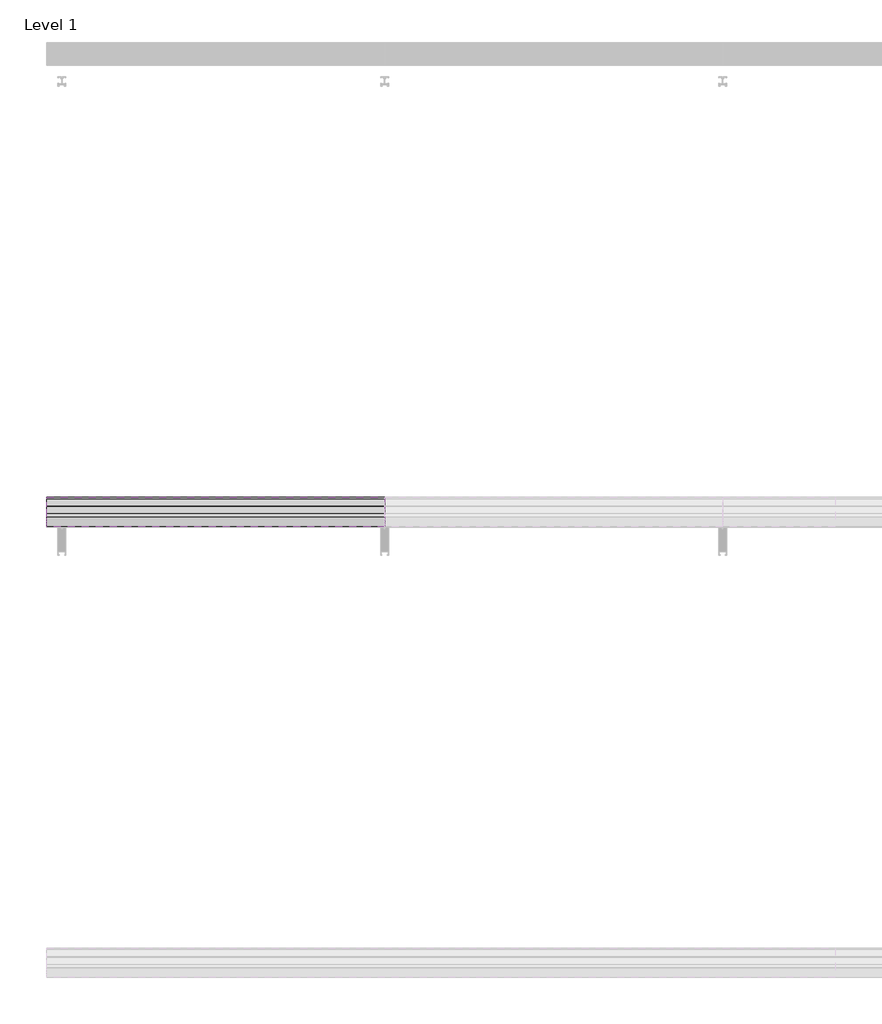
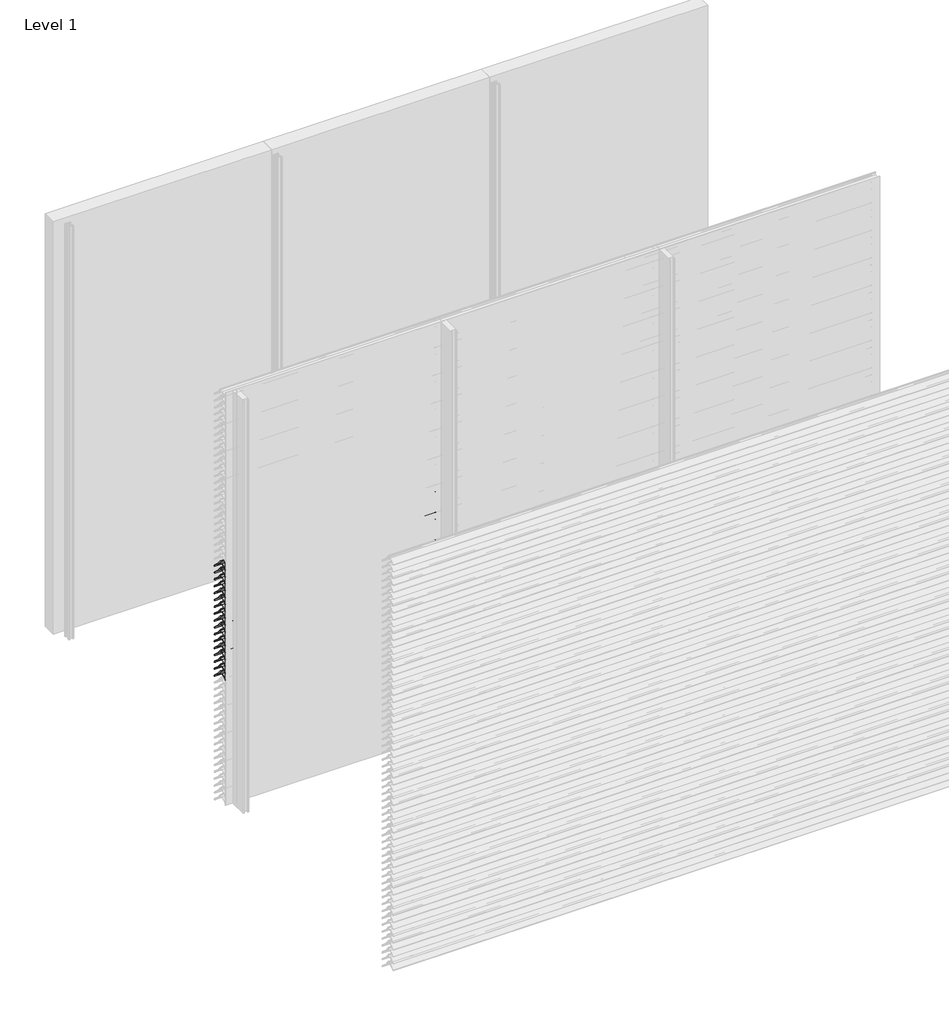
# One storey, part 25 of 173: 17 proxies.
"""IFC4 building model written with IfcOpenShell, lengths in millimetres."""

import ifcopenshell
import ifcopenshell.guid

model = None  # the IFC model being written
_history = None  # IfcOwnerHistory: only IFC2X3 demands one
_inside = {}  # id of a spatial element -> (the spatial element, [elements in it])
_under = {}  # id of a project, library or spatial element -> (it, [spatial elements below it])
_declared = {}  # id of a project -> (the project, [libraries it declares])
_typed = {}  # id of a type object -> (the type object, [elements of that type])
_made_of = {}  # id of a material, layer set ... -> (it, [elements and type objects made of it])


def new_model(schema):
    """Start an empty IFC model of exactly this schema.

    Asked for "IFC4X3", IfcOpenShell would pick the latest addendum, in which some entities
    have other attributes; the version numbers below select the first issue.
    IFC2X3 requires an IfcOwnerHistory on every rooted entity: one is made here for all.
    """
    global model, _history
    if schema == "IFC4X3":
        model = ifcopenshell.file(schema_version=(4, 3, 0, 0))
    else:
        model = ifcopenshell.file(schema=schema)
    _inside.clear()
    _under.clear()
    _declared.clear()
    _typed.clear()
    _made_of.clear()
    _history = None
    if model.schema == "IFC2X3":
        org = make("IfcOrganization", Name="unknown")
        user = make(
            "IfcPersonAndOrganization",
            ThePerson=make("IfcPerson", FamilyName="unknown"),
            TheOrganization=org,
        )
        app = make(
            "IfcApplication",
            ApplicationDeveloper=org,
            Version="unknown",
            ApplicationFullName="unknown",
            ApplicationIdentifier="unknown",
        )
        _history = make(
            "IfcOwnerHistory",
            OwningUser=user,
            OwningApplication=app,
            ChangeAction="ADDED",
            CreationDate=0,
        )
    return model


def make(cls, **values):
    """One entity of the class cls with the attributes given. An attribute that is None is left unset."""
    return model.create_entity(
        cls, **{name: value for name, value in values.items() if value is not None}
    )


def rooted(cls, **values):
    """An entity with a GlobalId (a new one), such as an element, a storey or a relation."""
    return make(cls, GlobalId=ifcopenshell.guid.new(), OwnerHistory=_history, **values)


def si_unit(unit_type, name, prefix=None):
    """IfcSIUnit, for example si_unit("LENGTHUNIT", "METRE", prefix="MILLI")."""
    return make("IfcSIUnit", UnitType=unit_type, Prefix=prefix, Name=name)


def assignment(units):
    """IfcUnitAssignment: the units of a project."""
    return None if units is None else make("IfcUnitAssignment", Units=units)


def point(xyz):
    """IfcCartesianPoint."""
    return None if xyz is None else make("IfcCartesianPoint", Coordinates=xyz)


def direction(xyz):
    """IfcDirection."""
    return None if xyz is None else make("IfcDirection", DirectionRatios=xyz)


def frame(location, z_axis=None, x_axis=None):
    """IfcAxis2Placement3D, a coordinate frame: its origin and axes. An axis left out is left unset."""
    return make(
        "IfcAxis2Placement3D",
        Location=point(location),
        Axis=direction(z_axis),
        RefDirection=direction(x_axis),
    )


def frame_2d(location, x_axis=None):
    """IfcAxis2Placement2D, a coordinate frame in the plane: its origin and x axis."""
    return make(
        "IfcAxis2Placement2D", Location=point(location), RefDirection=direction(x_axis)
    )


def origin():
    """The frame at (0, 0, 0) with its axes left unset."""
    return frame((0.0, 0.0, 0.0))


def place(relative_to, where):
    """IfcLocalPlacement: puts the frame where relative to a parent placement (None: the world)."""
    return make(
        "IfcLocalPlacement", PlacementRelTo=relative_to, RelativePlacement=where
    )


def context(
    kind, dimensions, precision=None, world=None, true_north=None, identifier=None
):
    """IfcGeometricRepresentationContext, for example the 3D "Model" context."""
    return make(
        "IfcGeometricRepresentationContext",
        ContextIdentifier=identifier,
        ContextType=kind,
        CoordinateSpaceDimension=dimensions,
        Precision=precision,
        WorldCoordinateSystem=world,
        TrueNorth=true_north,
    )


def project(units=None, contexts=None):
    """IfcProject with its units and contexts."""
    return rooted(
        "IfcProject",
        Name="project",
        RepresentationContexts=contexts,
        UnitsInContext=assignment(units),
    )


def spatial(cls, under=None, at=None, **own):
    """A site, building, storey or space (cls), placed at a placement, below another one or the project."""
    s = rooted(cls, ObjectPlacement=at, **own)
    if under is not None:
        _under.setdefault(under.id(), (under, []))[1].append(s)
    return s


def polyline(points):
    """IfcPolyline through the points."""
    return make("IfcPolyline", Points=[point(p) for p in points])


def circle_curve(where, radius):
    """IfcCircle in the frame where."""
    return make("IfcCircle", Position=where, Radius=radius)


def trimmed(basis, trim1, trim2, sense, master):
    """IfcTrimmedCurve: the piece of a basis curve between two trims."""
    return make(
        "IfcTrimmedCurve",
        BasisCurve=basis,
        Trim1=trim1,
        Trim2=trim2,
        SenseAgreement=sense,
        MasterRepresentation=master,
    )


def segment(curve, same_sense, transition):
    """IfcCompositeCurveSegment."""
    return make(
        "IfcCompositeCurveSegment",
        Transition=transition,
        SameSense=same_sense,
        ParentCurve=curve,
    )


def composite_curve(segments, self_intersect=None):
    """IfcCompositeCurve: segments joined end to end."""
    return make("IfcCompositeCurve", Segments=segments, SelfIntersect=self_intersect)


def outline(outer, holes=None, kind="AREA"):
    """IfcArbitraryClosedProfileDef: a profile drawn as a closed curve; with holes, ...WithVoids."""
    if holes is None:
        return make("IfcArbitraryClosedProfileDef", ProfileType=kind, OuterCurve=outer)
    return make(
        "IfcArbitraryProfileDefWithVoids",
        ProfileType=kind,
        OuterCurve=outer,
        InnerCurves=holes,
    )


def extrude(swept, where, along, depth):
    """IfcExtrudedAreaSolid: the profile swept, set in the frame where, extruded along a direction by depth."""
    return make(
        "IfcExtrudedAreaSolid",
        SweptArea=swept,
        Position=where,
        ExtrudedDirection=direction(along),
        Depth=depth,
    )


def shape(context_of_items, identifier, shape_type, items):
    """IfcShapeRepresentation: the items that make up one representation, for example the "Body"."""
    return make(
        "IfcShapeRepresentation",
        ContextOfItems=context_of_items,
        RepresentationIdentifier=identifier,
        RepresentationType=shape_type,
        Items=items,
    )


def made_of(thing, what):
    """Note that an element or type object is made of a material, layer set ...; save() writes the relation."""
    if what is not None:
        _made_of.setdefault(what.id(), (what, []))[1].append(thing)
    return thing


def element(
    cls,
    number,
    at=None,
    inside=None,
    cuts=None,
    type_object=None,
    material=None,
    context=None,
    identifier="Body",
    shape_type=None,
    held_by="IfcProductDefinitionShape",
    body=None,
    shapes=None,
    **own,
):
    """One element of the class cls, such as IfcWall. Its Tag is "e" and its number.

    at: its placement. inside: the storey or other place that contains it. cuts: it is an
    opening in that element (IfcRelVoidsElement). A single representation is given by context,
    identifier, shape_type and body (its items); several are given by shapes. held_by: the class
    of the entity that holds the representations. save() writes the other relations.
    """
    e = rooted(cls, Tag="e%d" % number, ObjectPlacement=at, **own)
    if body is not None:
        shapes = [shape(context, identifier, shape_type, body)]
    if shapes is not None:
        e.Representation = make(held_by, Representations=shapes)
    if inside is not None:
        _inside.setdefault(inside.id(), (inside, []))[1].append(e)
    if cuts is not None:
        rooted(
            "IfcRelVoidsElement", RelatingBuildingElement=cuts, RelatedOpeningElement=e
        )
    if type_object is not None:
        _typed.setdefault(type_object.id(), (type_object, []))[1].append(e)
    return made_of(e, material)


def aggregate(whole, parts):
    """IfcRelAggregates: a whole, such as a stair, and the parts it consists of."""
    return rooted("IfcRelAggregates", RelatingObject=whole, RelatedObjects=parts)


def save(model, path):
    """Write the relations noted so far, then the file.

    IfcRelAggregates (storeys below a building ...), IfcRelContainedInSpatialStructure (elements
    in a storey), IfcRelDefinesByType, IfcRelAssociatesMaterial and IfcRelDeclares: one each for
    every whole, place, type object, material and project.
    """
    for whole, parts in _under.values():
        aggregate(whole, parts)
    for where, things in _inside.values():
        rooted(
            "IfcRelContainedInSpatialStructure",
            RelatedElements=things,
            RelatingStructure=where,
        )
    for kind, things in _typed.values():
        rooted("IfcRelDefinesByType", RelatedObjects=things, RelatingType=kind)
    for what, things in _made_of.values():
        rooted("IfcRelAssociatesMaterial", RelatedObjects=things, RelatingMaterial=what)
    for by, libraries in _declared.values():
        rooted("IfcRelDeclares", RelatingContext=by, RelatedDefinitions=libraries)
    model.write(path)


model = new_model("IFC4")

# Units and contexts
model_context = context("Model", 3, world=origin())
ifc_project = project(units=[si_unit("LENGTHUNIT", "METRE", prefix="MILLI")], contexts=[model_context])

# Site, building, storey
site = spatial("IfcSite", under=ifc_project)
building = spatial("IfcBuilding", under=site)
storey = spatial("IfcBuildingStorey", under=building, Name="Level 1", Elevation=0.0)

# Proxies
placement = place(None, origin())
element("IfcBuildingElementProxy", 1, Name="Wall Sweeps", at=placement, inside=storey, context=model_context, shape_type="SweptSolid", body=[
    extrude(outline(composite_curve([segment(polyline([(-47998.0, 1709.1474905), (-47998.0, 1711.6227417)]), True, "CONTINUOUS"), segment(trimmed(circle_curve(frame_2d((-47951.2682172, 1666.2200208)), 65.1557103), [point((-47998.0, 1711.6227417))], [point((-47954.4014323, 1731.3003524))], False, "CARTESIAN"), True, "CONTINUOUS"), segment(polyline([(-47954.4014323, 1731.3003524), (-47934.8315836, 1731.3003524)]), True, "CONTINUOUS"), segment(trimmed(circle_curve(frame_2d((-47732.7329489, 1878.5533172)), 250.0545817), [point((-47934.8315836, 1731.3003524))], [point((-47941.4452143, 1740.8344583))], False, "CARTESIAN"), True, "CONTINUOUS"), segment(trimmed(circle_curve(frame_2d((-47953.2981792, 1735.1737835)), 13.1352966), [point((-47941.4452143, 1740.8344583))], [point((-47953.8171475, 1748.298824))], True, "CARTESIAN"), True, "CONTINUOUS"), segment(polyline([(-47953.8171475, 1748.298824), (-47953.8171475, 1750.0)]), True, "CONTINUOUS"), segment(trimmed(circle_curve(frame_2d((-47953.2981792, 1735.1737835)), 14.8352966), [point((-47953.8171475, 1750.0))], [point((-47939.9637661, 1741.6760487))], False, "CARTESIAN"), True, "CONTINUOUS"), segment(trimmed(circle_curve(frame_2d((-47732.7329489, 1878.5533172)), 248.3545817), [point((-47939.9637661, 1741.6760487))], [point((-47873.8787895, 1674.2059416))], True, "CARTESIAN"), True, "CONTINUOUS"), segment(trimmed(circle_curve(frame_2d((-47883.8147537, 1661.6649442)), 16.0), [point((-47873.8787895, 1674.2059416))], [point((-47867.8648347, 1660.4))], False, "CARTESIAN"), True, "CONTINUOUS"), segment(polyline([(-47867.8648347, 1660.4), (-47869.6712069, 1660.4)]), True, "CONTINUOUS"), segment(trimmed(circle_curve(frame_2d((-47883.8147537, 1661.6649442)), 14.2), [point((-47869.6712069, 1660.4))], [point((-47874.9518628, 1672.7594998))], True, "CARTESIAN"), True, "CONTINUOUS"), segment(trimmed(circle_curve(frame_2d((-47732.7329489, 1878.5533172)), 250.1545817), [point((-47874.9518628, 1672.7594998))], [point((-47933.7064024, 1729.6003524))], False, "CARTESIAN"), True, "CONTINUOUS"), segment(polyline([(-47933.7064024, 1729.6003524), (-47954.3602632, 1729.6003524)]), True, "CONTINUOUS"), segment(trimmed(circle_curve(frame_2d((-47951.2682172, 1666.2200208)), 63.4557103), [point((-47954.3602632, 1729.6003524))], [point((-47998.0, 1709.1474905))], True, "CARTESIAN"), True, "CONTINUOUS")], self_intersect=False)), frame((0.0, 0.0, 0.0), z_axis=(1.0, 0.0, 0.0), x_axis=(0.0, 1.0, 0.0)), (0.0, 0.0, 1.0), 1500.0),
])
element("IfcBuildingElementProxy", 2, Name="Wall Sweeps", at=placement, inside=storey, context=model_context, shape_type="SweptSolid", body=[
    extrude(outline(composite_curve([segment(polyline([(-47998.0, 1659.1474905), (-47998.0, 1661.6227417)]), True, "CONTINUOUS"), segment(trimmed(circle_curve(frame_2d((-47951.2682172, 1616.2200208)), 65.1557103), [point((-47998.0, 1661.6227417))], [point((-47954.4014323, 1681.3003524))], False, "CARTESIAN"), True, "CONTINUOUS"), segment(polyline([(-47954.4014323, 1681.3003524), (-47934.8315836, 1681.3003524)]), True, "CONTINUOUS"), segment(trimmed(circle_curve(frame_2d((-47732.7329489, 1828.5533172)), 250.0545817), [point((-47934.8315836, 1681.3003524))], [point((-47941.4452143, 1690.8344583))], False, "CARTESIAN"), True, "CONTINUOUS"), segment(trimmed(circle_curve(frame_2d((-47953.2981792, 1685.1737835)), 13.1352966), [point((-47941.4452143, 1690.8344583))], [point((-47953.8171475, 1698.298824))], True, "CARTESIAN"), True, "CONTINUOUS"), segment(polyline([(-47953.8171475, 1698.298824), (-47953.8171475, 1700.0)]), True, "CONTINUOUS"), segment(trimmed(circle_curve(frame_2d((-47953.2981792, 1685.1737835)), 14.8352966), [point((-47953.8171475, 1700.0))], [point((-47939.9637661, 1691.6760487))], False, "CARTESIAN"), True, "CONTINUOUS"), segment(trimmed(circle_curve(frame_2d((-47732.7329489, 1828.5533172)), 248.3545817), [point((-47939.9637661, 1691.6760487))], [point((-47873.8787895, 1624.2059416))], True, "CARTESIAN"), True, "CONTINUOUS"), segment(trimmed(circle_curve(frame_2d((-47883.8147537, 1611.6649442)), 16.0), [point((-47873.8787895, 1624.2059416))], [point((-47867.8648347, 1610.4))], False, "CARTESIAN"), True, "CONTINUOUS"), segment(polyline([(-47867.8648347, 1610.4), (-47869.6712069, 1610.4)]), True, "CONTINUOUS"), segment(trimmed(circle_curve(frame_2d((-47883.8147537, 1611.6649442)), 14.2), [point((-47869.6712069, 1610.4))], [point((-47874.9518628, 1622.7594998))], True, "CARTESIAN"), True, "CONTINUOUS"), segment(trimmed(circle_curve(frame_2d((-47732.7329489, 1828.5533172)), 250.1545817), [point((-47874.9518628, 1622.7594998))], [point((-47933.7064024, 1679.6003524))], False, "CARTESIAN"), True, "CONTINUOUS"), segment(polyline([(-47933.7064024, 1679.6003524), (-47954.3602632, 1679.6003524)]), True, "CONTINUOUS"), segment(trimmed(circle_curve(frame_2d((-47951.2682172, 1616.2200208)), 63.4557103), [point((-47954.3602632, 1679.6003524))], [point((-47998.0, 1659.1474905))], True, "CARTESIAN"), True, "CONTINUOUS")], self_intersect=False)), frame((0.0, 0.0, 0.0), z_axis=(1.0, 0.0, 0.0), x_axis=(0.0, 1.0, 0.0)), (0.0, 0.0, 1.0), 1500.0),
])
element("IfcBuildingElementProxy", 3, Name="Wall Sweeps", at=placement, inside=storey, context=model_context, shape_type="SweptSolid", body=[
    extrude(outline(composite_curve([segment(polyline([(-47998.0, 1609.1474905), (-47998.0, 1611.6227417)]), True, "CONTINUOUS"), segment(trimmed(circle_curve(frame_2d((-47951.2682172, 1566.2200208)), 65.1557103), [point((-47998.0, 1611.6227417))], [point((-47954.4014323, 1631.3003524))], False, "CARTESIAN"), True, "CONTINUOUS"), segment(polyline([(-47954.4014323, 1631.3003524), (-47934.8315836, 1631.3003524)]), True, "CONTINUOUS"), segment(trimmed(circle_curve(frame_2d((-47732.7329489, 1778.5533172)), 250.0545817), [point((-47934.8315836, 1631.3003524))], [point((-47941.4452143, 1640.8344583))], False, "CARTESIAN"), True, "CONTINUOUS"), segment(trimmed(circle_curve(frame_2d((-47953.2981792, 1635.1737835)), 13.1352966), [point((-47941.4452143, 1640.8344583))], [point((-47953.8171475, 1648.298824))], True, "CARTESIAN"), True, "CONTINUOUS"), segment(polyline([(-47953.8171475, 1648.298824), (-47953.8171475, 1650.0)]), True, "CONTINUOUS"), segment(trimmed(circle_curve(frame_2d((-47953.2981792, 1635.1737835)), 14.8352966), [point((-47953.8171475, 1650.0))], [point((-47939.9637661, 1641.6760487))], False, "CARTESIAN"), True, "CONTINUOUS"), segment(trimmed(circle_curve(frame_2d((-47732.7329489, 1778.5533172)), 248.3545817), [point((-47939.9637661, 1641.6760487))], [point((-47873.8787895, 1574.2059416))], True, "CARTESIAN"), True, "CONTINUOUS"), segment(trimmed(circle_curve(frame_2d((-47883.8147537, 1561.6649442)), 16.0), [point((-47873.8787895, 1574.2059416))], [point((-47867.8648347, 1560.4))], False, "CARTESIAN"), True, "CONTINUOUS"), segment(polyline([(-47867.8648347, 1560.4), (-47869.6712069, 1560.4)]), True, "CONTINUOUS"), segment(trimmed(circle_curve(frame_2d((-47883.8147537, 1561.6649442)), 14.2), [point((-47869.6712069, 1560.4))], [point((-47874.9518628, 1572.7594998))], True, "CARTESIAN"), True, "CONTINUOUS"), segment(trimmed(circle_curve(frame_2d((-47732.7329489, 1778.5533172)), 250.1545817), [point((-47874.9518628, 1572.7594998))], [point((-47933.7064024, 1629.6003524))], False, "CARTESIAN"), True, "CONTINUOUS"), segment(polyline([(-47933.7064024, 1629.6003524), (-47954.3602632, 1629.6003524)]), True, "CONTINUOUS"), segment(trimmed(circle_curve(frame_2d((-47951.2682172, 1566.2200208)), 63.4557103), [point((-47954.3602632, 1629.6003524))], [point((-47998.0, 1609.1474905))], True, "CARTESIAN"), True, "CONTINUOUS")], self_intersect=False)), frame((0.0, 0.0, 0.0), z_axis=(1.0, 0.0, 0.0), x_axis=(0.0, 1.0, 0.0)), (0.0, 0.0, 1.0), 1500.0),
])
element("IfcBuildingElementProxy", 4, Name="Wall Sweeps", at=placement, inside=storey, context=model_context, shape_type="SweptSolid", body=[
    extrude(outline(composite_curve([segment(polyline([(-47998.0, 1559.1474905), (-47998.0, 1561.6227417)]), True, "CONTINUOUS"), segment(trimmed(circle_curve(frame_2d((-47951.2682172, 1516.2200208)), 65.1557103), [point((-47998.0, 1561.6227417))], [point((-47954.4014323, 1581.3003524))], False, "CARTESIAN"), True, "CONTINUOUS"), segment(polyline([(-47954.4014323, 1581.3003524), (-47934.8315836, 1581.3003524)]), True, "CONTINUOUS"), segment(trimmed(circle_curve(frame_2d((-47732.7329489, 1728.5533172)), 250.0545817), [point((-47934.8315836, 1581.3003524))], [point((-47941.4452143, 1590.8344583))], False, "CARTESIAN"), True, "CONTINUOUS"), segment(trimmed(circle_curve(frame_2d((-47953.2981792, 1585.1737835)), 13.1352966), [point((-47941.4452143, 1590.8344583))], [point((-47953.8171475, 1598.298824))], True, "CARTESIAN"), True, "CONTINUOUS"), segment(polyline([(-47953.8171475, 1598.298824), (-47953.8171475, 1600.0)]), True, "CONTINUOUS"), segment(trimmed(circle_curve(frame_2d((-47953.2981792, 1585.1737835)), 14.8352966), [point((-47953.8171475, 1600.0))], [point((-47939.9637661, 1591.6760487))], False, "CARTESIAN"), True, "CONTINUOUS"), segment(trimmed(circle_curve(frame_2d((-47732.7329489, 1728.5533172)), 248.3545817), [point((-47939.9637661, 1591.6760487))], [point((-47873.8787895, 1524.2059416))], True, "CARTESIAN"), True, "CONTINUOUS"), segment(trimmed(circle_curve(frame_2d((-47883.8147537, 1511.6649442)), 16.0), [point((-47873.8787895, 1524.2059416))], [point((-47867.8648347, 1510.4))], False, "CARTESIAN"), True, "CONTINUOUS"), segment(polyline([(-47867.8648347, 1510.4), (-47869.6712069, 1510.4)]), True, "CONTINUOUS"), segment(trimmed(circle_curve(frame_2d((-47883.8147537, 1511.6649442)), 14.2), [point((-47869.6712069, 1510.4))], [point((-47874.9518628, 1522.7594998))], True, "CARTESIAN"), True, "CONTINUOUS"), segment(trimmed(circle_curve(frame_2d((-47732.7329489, 1728.5533172)), 250.1545817), [point((-47874.9518628, 1522.7594998))], [point((-47933.7064024, 1579.6003524))], False, "CARTESIAN"), True, "CONTINUOUS"), segment(polyline([(-47933.7064024, 1579.6003524), (-47954.3602632, 1579.6003524)]), True, "CONTINUOUS"), segment(trimmed(circle_curve(frame_2d((-47951.2682172, 1516.2200208)), 63.4557103), [point((-47954.3602632, 1579.6003524))], [point((-47998.0, 1559.1474905))], True, "CARTESIAN"), True, "CONTINUOUS")], self_intersect=False)), frame((0.0, 0.0, 0.0), z_axis=(1.0, 0.0, 0.0), x_axis=(0.0, 1.0, 0.0)), (0.0, 0.0, 1.0), 1500.0),
])
element("IfcBuildingElementProxy", 5, Name="Wall Sweeps", at=placement, inside=storey, context=model_context, shape_type="SweptSolid", body=[
    extrude(outline(composite_curve([segment(polyline([(-47998.0, 1509.1474905), (-47998.0, 1511.6227417)]), True, "CONTINUOUS"), segment(trimmed(circle_curve(frame_2d((-47951.2682172, 1466.2200208)), 65.1557103), [point((-47998.0, 1511.6227417))], [point((-47954.4014323, 1531.3003524))], False, "CARTESIAN"), True, "CONTINUOUS"), segment(polyline([(-47954.4014323, 1531.3003524), (-47934.8315836, 1531.3003524)]), True, "CONTINUOUS"), segment(trimmed(circle_curve(frame_2d((-47732.7329489, 1678.5533172)), 250.0545817), [point((-47934.8315836, 1531.3003524))], [point((-47941.4452143, 1540.8344583))], False, "CARTESIAN"), True, "CONTINUOUS"), segment(trimmed(circle_curve(frame_2d((-47953.2981792, 1535.1737835)), 13.1352966), [point((-47941.4452143, 1540.8344583))], [point((-47953.8171475, 1548.298824))], True, "CARTESIAN"), True, "CONTINUOUS"), segment(polyline([(-47953.8171475, 1548.298824), (-47953.8171475, 1550.0)]), True, "CONTINUOUS"), segment(trimmed(circle_curve(frame_2d((-47953.2981792, 1535.1737835)), 14.8352966), [point((-47953.8171475, 1550.0))], [point((-47939.9637661, 1541.6760487))], False, "CARTESIAN"), True, "CONTINUOUS"), segment(trimmed(circle_curve(frame_2d((-47732.7329489, 1678.5533172)), 248.3545817), [point((-47939.9637661, 1541.6760487))], [point((-47873.8787895, 1474.2059416))], True, "CARTESIAN"), True, "CONTINUOUS"), segment(trimmed(circle_curve(frame_2d((-47883.8147537, 1461.6649442)), 16.0), [point((-47873.8787895, 1474.2059416))], [point((-47867.8648347, 1460.4))], False, "CARTESIAN"), True, "CONTINUOUS"), segment(polyline([(-47867.8648347, 1460.4), (-47869.6712069, 1460.4)]), True, "CONTINUOUS"), segment(trimmed(circle_curve(frame_2d((-47883.8147537, 1461.6649442)), 14.2), [point((-47869.6712069, 1460.4))], [point((-47874.9518628, 1472.7594998))], True, "CARTESIAN"), True, "CONTINUOUS"), segment(trimmed(circle_curve(frame_2d((-47732.7329489, 1678.5533172)), 250.1545817), [point((-47874.9518628, 1472.7594998))], [point((-47933.7064024, 1529.6003524))], False, "CARTESIAN"), True, "CONTINUOUS"), segment(polyline([(-47933.7064024, 1529.6003524), (-47954.3602632, 1529.6003524)]), True, "CONTINUOUS"), segment(trimmed(circle_curve(frame_2d((-47951.2682172, 1466.2200208)), 63.4557103), [point((-47954.3602632, 1529.6003524))], [point((-47998.0, 1509.1474905))], True, "CARTESIAN"), True, "CONTINUOUS")], self_intersect=False)), frame((0.0, 0.0, 0.0), z_axis=(1.0, 0.0, 0.0), x_axis=(0.0, 1.0, 0.0)), (0.0, 0.0, 1.0), 1500.0),
])
element("IfcBuildingElementProxy", 6, Name="Wall Sweeps", at=placement, inside=storey, context=model_context, shape_type="SweptSolid", body=[
    extrude(outline(composite_curve([segment(polyline([(-47998.0, 1459.1474905), (-47998.0, 1461.6227417)]), True, "CONTINUOUS"), segment(trimmed(circle_curve(frame_2d((-47951.2682172, 1416.2200208)), 65.1557103), [point((-47998.0, 1461.6227417))], [point((-47954.4014323, 1481.3003524))], False, "CARTESIAN"), True, "CONTINUOUS"), segment(polyline([(-47954.4014323, 1481.3003524), (-47934.8315836, 1481.3003524)]), True, "CONTINUOUS"), segment(trimmed(circle_curve(frame_2d((-47732.7329489, 1628.5533172)), 250.0545817), [point((-47934.8315836, 1481.3003524))], [point((-47941.4452143, 1490.8344583))], False, "CARTESIAN"), True, "CONTINUOUS"), segment(trimmed(circle_curve(frame_2d((-47953.2981792, 1485.1737835)), 13.1352966), [point((-47941.4452143, 1490.8344583))], [point((-47953.8171475, 1498.298824))], True, "CARTESIAN"), True, "CONTINUOUS"), segment(polyline([(-47953.8171475, 1498.298824), (-47953.8171475, 1500.0)]), True, "CONTINUOUS"), segment(trimmed(circle_curve(frame_2d((-47953.2981792, 1485.1737835)), 14.8352966), [point((-47953.8171475, 1500.0))], [point((-47939.9637661, 1491.6760487))], False, "CARTESIAN"), True, "CONTINUOUS"), segment(trimmed(circle_curve(frame_2d((-47732.7329489, 1628.5533172)), 248.3545817), [point((-47939.9637661, 1491.6760487))], [point((-47873.8787895, 1424.2059416))], True, "CARTESIAN"), True, "CONTINUOUS"), segment(trimmed(circle_curve(frame_2d((-47883.8147537, 1411.6649442)), 16.0), [point((-47873.8787895, 1424.2059416))], [point((-47867.8648347, 1410.4))], False, "CARTESIAN"), True, "CONTINUOUS"), segment(polyline([(-47867.8648347, 1410.4), (-47869.6712069, 1410.4)]), True, "CONTINUOUS"), segment(trimmed(circle_curve(frame_2d((-47883.8147537, 1411.6649442)), 14.2), [point((-47869.6712069, 1410.4))], [point((-47874.9518628, 1422.7594998))], True, "CARTESIAN"), True, "CONTINUOUS"), segment(trimmed(circle_curve(frame_2d((-47732.7329489, 1628.5533172)), 250.1545817), [point((-47874.9518628, 1422.7594998))], [point((-47933.7064024, 1479.6003524))], False, "CARTESIAN"), True, "CONTINUOUS"), segment(polyline([(-47933.7064024, 1479.6003524), (-47954.3602632, 1479.6003524)]), True, "CONTINUOUS"), segment(trimmed(circle_curve(frame_2d((-47951.2682172, 1416.2200208)), 63.4557103), [point((-47954.3602632, 1479.6003524))], [point((-47998.0, 1459.1474905))], True, "CARTESIAN"), True, "CONTINUOUS")], self_intersect=False)), frame((0.0, 0.0, 0.0), z_axis=(1.0, 0.0, 0.0), x_axis=(0.0, 1.0, 0.0)), (0.0, 0.0, 1.0), 1500.0),
])
element("IfcBuildingElementProxy", 7, Name="Wall Sweeps", at=placement, inside=storey, context=model_context, shape_type="SweptSolid", body=[
    extrude(outline(composite_curve([segment(polyline([(-47998.0, 1409.1474905), (-47998.0, 1411.6227417)]), True, "CONTINUOUS"), segment(trimmed(circle_curve(frame_2d((-47951.2682172, 1366.2200208)), 65.1557103), [point((-47998.0, 1411.6227417))], [point((-47954.4014323, 1431.3003524))], False, "CARTESIAN"), True, "CONTINUOUS"), segment(polyline([(-47954.4014323, 1431.3003524), (-47934.8315836, 1431.3003524)]), True, "CONTINUOUS"), segment(trimmed(circle_curve(frame_2d((-47732.7329489, 1578.5533172)), 250.0545817), [point((-47934.8315836, 1431.3003524))], [point((-47941.4452143, 1440.8344583))], False, "CARTESIAN"), True, "CONTINUOUS"), segment(trimmed(circle_curve(frame_2d((-47953.2981792, 1435.1737835)), 13.1352966), [point((-47941.4452143, 1440.8344583))], [point((-47953.8171475, 1448.298824))], True, "CARTESIAN"), True, "CONTINUOUS"), segment(polyline([(-47953.8171475, 1448.298824), (-47953.8171475, 1450.0)]), True, "CONTINUOUS"), segment(trimmed(circle_curve(frame_2d((-47953.2981792, 1435.1737835)), 14.8352966), [point((-47953.8171475, 1450.0))], [point((-47939.9637661, 1441.6760487))], False, "CARTESIAN"), True, "CONTINUOUS"), segment(trimmed(circle_curve(frame_2d((-47732.7329489, 1578.5533172)), 248.3545817), [point((-47939.9637661, 1441.6760487))], [point((-47873.8787895, 1374.2059416))], True, "CARTESIAN"), True, "CONTINUOUS"), segment(trimmed(circle_curve(frame_2d((-47883.8147537, 1361.6649442)), 16.0), [point((-47873.8787895, 1374.2059416))], [point((-47867.8648347, 1360.4))], False, "CARTESIAN"), True, "CONTINUOUS"), segment(polyline([(-47867.8648347, 1360.4), (-47869.6712069, 1360.4)]), True, "CONTINUOUS"), segment(trimmed(circle_curve(frame_2d((-47883.8147537, 1361.6649442)), 14.2), [point((-47869.6712069, 1360.4))], [point((-47874.9518628, 1372.7594998))], True, "CARTESIAN"), True, "CONTINUOUS"), segment(trimmed(circle_curve(frame_2d((-47732.7329489, 1578.5533172)), 250.1545817), [point((-47874.9518628, 1372.7594998))], [point((-47933.7064024, 1429.6003524))], False, "CARTESIAN"), True, "CONTINUOUS"), segment(polyline([(-47933.7064024, 1429.6003524), (-47954.3602632, 1429.6003524)]), True, "CONTINUOUS"), segment(trimmed(circle_curve(frame_2d((-47951.2682172, 1366.2200208)), 63.4557103), [point((-47954.3602632, 1429.6003524))], [point((-47998.0, 1409.1474905))], True, "CARTESIAN"), True, "CONTINUOUS")], self_intersect=False)), frame((0.0, 0.0, 0.0), z_axis=(1.0, 0.0, 0.0), x_axis=(0.0, 1.0, 0.0)), (0.0, 0.0, 1.0), 1500.0),
])
element("IfcBuildingElementProxy", 8, Name="Wall Sweeps", at=placement, inside=storey, context=model_context, shape_type="SweptSolid", body=[
    extrude(outline(composite_curve([segment(polyline([(-47998.0, 1359.1474905), (-47998.0, 1361.6227417)]), True, "CONTINUOUS"), segment(trimmed(circle_curve(frame_2d((-47951.2682172, 1316.2200208)), 65.1557103), [point((-47998.0, 1361.6227417))], [point((-47954.4014323, 1381.3003524))], False, "CARTESIAN"), True, "CONTINUOUS"), segment(polyline([(-47954.4014323, 1381.3003524), (-47934.8315836, 1381.3003524)]), True, "CONTINUOUS"), segment(trimmed(circle_curve(frame_2d((-47732.7329489, 1528.5533172)), 250.0545817), [point((-47934.8315836, 1381.3003524))], [point((-47941.4452143, 1390.8344583))], False, "CARTESIAN"), True, "CONTINUOUS"), segment(trimmed(circle_curve(frame_2d((-47953.2981792, 1385.1737835)), 13.1352966), [point((-47941.4452143, 1390.8344583))], [point((-47953.8171475, 1398.298824))], True, "CARTESIAN"), True, "CONTINUOUS"), segment(polyline([(-47953.8171475, 1398.298824), (-47953.8171475, 1400.0)]), True, "CONTINUOUS"), segment(trimmed(circle_curve(frame_2d((-47953.2981792, 1385.1737835)), 14.8352966), [point((-47953.8171475, 1400.0))], [point((-47939.9637661, 1391.6760487))], False, "CARTESIAN"), True, "CONTINUOUS"), segment(trimmed(circle_curve(frame_2d((-47732.7329489, 1528.5533172)), 248.3545817), [point((-47939.9637661, 1391.6760487))], [point((-47873.8787895, 1324.2059416))], True, "CARTESIAN"), True, "CONTINUOUS"), segment(trimmed(circle_curve(frame_2d((-47883.8147537, 1311.6649442)), 16.0), [point((-47873.8787895, 1324.2059416))], [point((-47867.8648347, 1310.4))], False, "CARTESIAN"), True, "CONTINUOUS"), segment(polyline([(-47867.8648347, 1310.4), (-47869.6712069, 1310.4)]), True, "CONTINUOUS"), segment(trimmed(circle_curve(frame_2d((-47883.8147537, 1311.6649442)), 14.2), [point((-47869.6712069, 1310.4))], [point((-47874.9518628, 1322.7594998))], True, "CARTESIAN"), True, "CONTINUOUS"), segment(trimmed(circle_curve(frame_2d((-47732.7329489, 1528.5533172)), 250.1545817), [point((-47874.9518628, 1322.7594998))], [point((-47933.7064024, 1379.6003524))], False, "CARTESIAN"), True, "CONTINUOUS"), segment(polyline([(-47933.7064024, 1379.6003524), (-47954.3602632, 1379.6003524)]), True, "CONTINUOUS"), segment(trimmed(circle_curve(frame_2d((-47951.2682172, 1316.2200208)), 63.4557103), [point((-47954.3602632, 1379.6003524))], [point((-47998.0, 1359.1474905))], True, "CARTESIAN"), True, "CONTINUOUS")], self_intersect=False)), frame((0.0, 0.0, 0.0), z_axis=(1.0, 0.0, 0.0), x_axis=(0.0, 1.0, 0.0)), (0.0, 0.0, 1.0), 1500.0),
])
element("IfcBuildingElementProxy", 9, Name="Wall Sweeps", at=placement, inside=storey, context=model_context, shape_type="SweptSolid", body=[
    extrude(outline(composite_curve([segment(polyline([(-47998.0, 1309.1474905), (-47998.0, 1311.6227417)]), True, "CONTINUOUS"), segment(trimmed(circle_curve(frame_2d((-47951.2682172, 1266.2200208)), 65.1557103), [point((-47998.0, 1311.6227417))], [point((-47954.4014323, 1331.3003524))], False, "CARTESIAN"), True, "CONTINUOUS"), segment(polyline([(-47954.4014323, 1331.3003524), (-47934.8315836, 1331.3003524)]), True, "CONTINUOUS"), segment(trimmed(circle_curve(frame_2d((-47732.7329489, 1478.5533172)), 250.0545817), [point((-47934.8315836, 1331.3003524))], [point((-47941.4452143, 1340.8344583))], False, "CARTESIAN"), True, "CONTINUOUS"), segment(trimmed(circle_curve(frame_2d((-47953.2981792, 1335.1737835)), 13.1352966), [point((-47941.4452143, 1340.8344583))], [point((-47953.8171475, 1348.298824))], True, "CARTESIAN"), True, "CONTINUOUS"), segment(polyline([(-47953.8171475, 1348.298824), (-47953.8171475, 1350.0)]), True, "CONTINUOUS"), segment(trimmed(circle_curve(frame_2d((-47953.2981792, 1335.1737835)), 14.8352966), [point((-47953.8171475, 1350.0))], [point((-47939.9637661, 1341.6760487))], False, "CARTESIAN"), True, "CONTINUOUS"), segment(trimmed(circle_curve(frame_2d((-47732.7329489, 1478.5533172)), 248.3545817), [point((-47939.9637661, 1341.6760487))], [point((-47873.8787895, 1274.2059416))], True, "CARTESIAN"), True, "CONTINUOUS"), segment(trimmed(circle_curve(frame_2d((-47883.8147537, 1261.6649442)), 16.0), [point((-47873.8787895, 1274.2059416))], [point((-47867.8648347, 1260.4))], False, "CARTESIAN"), True, "CONTINUOUS"), segment(polyline([(-47867.8648347, 1260.4), (-47869.6712069, 1260.4)]), True, "CONTINUOUS"), segment(trimmed(circle_curve(frame_2d((-47883.8147537, 1261.6649442)), 14.2), [point((-47869.6712069, 1260.4))], [point((-47874.9518628, 1272.7594998))], True, "CARTESIAN"), True, "CONTINUOUS"), segment(trimmed(circle_curve(frame_2d((-47732.7329489, 1478.5533172)), 250.1545817), [point((-47874.9518628, 1272.7594998))], [point((-47933.7064024, 1329.6003524))], False, "CARTESIAN"), True, "CONTINUOUS"), segment(polyline([(-47933.7064024, 1329.6003524), (-47954.3602632, 1329.6003524)]), True, "CONTINUOUS"), segment(trimmed(circle_curve(frame_2d((-47951.2682172, 1266.2200208)), 63.4557103), [point((-47954.3602632, 1329.6003524))], [point((-47998.0, 1309.1474905))], True, "CARTESIAN"), True, "CONTINUOUS")], self_intersect=False)), frame((0.0, 0.0, 0.0), z_axis=(1.0, 0.0, 0.0), x_axis=(0.0, 1.0, 0.0)), (0.0, 0.0, 1.0), 1500.0),
])
element("IfcBuildingElementProxy", 10, Name="Wall Sweeps", at=placement, inside=storey, context=model_context, shape_type="SweptSolid", body=[
    extrude(outline(composite_curve([segment(polyline([(-47998.0, 1259.1474905), (-47998.0, 1261.6227417)]), True, "CONTINUOUS"), segment(trimmed(circle_curve(frame_2d((-47951.2682172, 1216.2200208)), 65.1557103), [point((-47998.0, 1261.6227417))], [point((-47954.4014323, 1281.3003524))], False, "CARTESIAN"), True, "CONTINUOUS"), segment(polyline([(-47954.4014323, 1281.3003524), (-47934.8315836, 1281.3003524)]), True, "CONTINUOUS"), segment(trimmed(circle_curve(frame_2d((-47732.7329489, 1428.5533172)), 250.0545817), [point((-47934.8315836, 1281.3003524))], [point((-47941.4452143, 1290.8344583))], False, "CARTESIAN"), True, "CONTINUOUS"), segment(trimmed(circle_curve(frame_2d((-47953.2981792, 1285.1737835)), 13.1352966), [point((-47941.4452143, 1290.8344583))], [point((-47953.8171475, 1298.298824))], True, "CARTESIAN"), True, "CONTINUOUS"), segment(polyline([(-47953.8171475, 1298.298824), (-47953.8171475, 1300.0)]), True, "CONTINUOUS"), segment(trimmed(circle_curve(frame_2d((-47953.2981792, 1285.1737835)), 14.8352966), [point((-47953.8171475, 1300.0))], [point((-47939.9637661, 1291.6760487))], False, "CARTESIAN"), True, "CONTINUOUS"), segment(trimmed(circle_curve(frame_2d((-47732.7329489, 1428.5533172)), 248.3545817), [point((-47939.9637661, 1291.6760487))], [point((-47873.8787895, 1224.2059416))], True, "CARTESIAN"), True, "CONTINUOUS"), segment(trimmed(circle_curve(frame_2d((-47883.8147537, 1211.6649442)), 16.0), [point((-47873.8787895, 1224.2059416))], [point((-47867.8648347, 1210.4))], False, "CARTESIAN"), True, "CONTINUOUS"), segment(polyline([(-47867.8648347, 1210.4), (-47869.6712069, 1210.4)]), True, "CONTINUOUS"), segment(trimmed(circle_curve(frame_2d((-47883.8147537, 1211.6649442)), 14.2), [point((-47869.6712069, 1210.4))], [point((-47874.9518628, 1222.7594998))], True, "CARTESIAN"), True, "CONTINUOUS"), segment(trimmed(circle_curve(frame_2d((-47732.7329489, 1428.5533172)), 250.1545817), [point((-47874.9518628, 1222.7594998))], [point((-47933.7064024, 1279.6003524))], False, "CARTESIAN"), True, "CONTINUOUS"), segment(polyline([(-47933.7064024, 1279.6003524), (-47954.3602632, 1279.6003524)]), True, "CONTINUOUS"), segment(trimmed(circle_curve(frame_2d((-47951.2682172, 1216.2200208)), 63.4557103), [point((-47954.3602632, 1279.6003524))], [point((-47998.0, 1259.1474905))], True, "CARTESIAN"), True, "CONTINUOUS")], self_intersect=False)), frame((0.0, 0.0, 0.0), z_axis=(1.0, 0.0, 0.0), x_axis=(0.0, 1.0, 0.0)), (0.0, 0.0, 1.0), 1500.0),
])
element("IfcBuildingElementProxy", 11, Name="Wall Sweeps", at=placement, inside=storey, context=model_context, shape_type="SweptSolid", body=[
    extrude(outline(composite_curve([segment(polyline([(-47998.0, 1209.1474905), (-47998.0, 1211.6227417)]), True, "CONTINUOUS"), segment(trimmed(circle_curve(frame_2d((-47951.2682172, 1166.2200208)), 65.1557103), [point((-47998.0, 1211.6227417))], [point((-47954.4014323, 1231.3003524))], False, "CARTESIAN"), True, "CONTINUOUS"), segment(polyline([(-47954.4014323, 1231.3003524), (-47934.8315836, 1231.3003524)]), True, "CONTINUOUS"), segment(trimmed(circle_curve(frame_2d((-47732.7329489, 1378.5533172)), 250.0545817), [point((-47934.8315836, 1231.3003524))], [point((-47941.4452143, 1240.8344583))], False, "CARTESIAN"), True, "CONTINUOUS"), segment(trimmed(circle_curve(frame_2d((-47953.2981792, 1235.1737835)), 13.1352966), [point((-47941.4452143, 1240.8344583))], [point((-47953.8171475, 1248.298824))], True, "CARTESIAN"), True, "CONTINUOUS"), segment(polyline([(-47953.8171475, 1248.298824), (-47953.8171475, 1250.0)]), True, "CONTINUOUS"), segment(trimmed(circle_curve(frame_2d((-47953.2981792, 1235.1737835)), 14.8352966), [point((-47953.8171475, 1250.0))], [point((-47939.9637661, 1241.6760487))], False, "CARTESIAN"), True, "CONTINUOUS"), segment(trimmed(circle_curve(frame_2d((-47732.7329489, 1378.5533172)), 248.3545817), [point((-47939.9637661, 1241.6760487))], [point((-47873.8787895, 1174.2059416))], True, "CARTESIAN"), True, "CONTINUOUS"), segment(trimmed(circle_curve(frame_2d((-47883.8147537, 1161.6649442)), 16.0), [point((-47873.8787895, 1174.2059416))], [point((-47867.8648347, 1160.4))], False, "CARTESIAN"), True, "CONTINUOUS"), segment(polyline([(-47867.8648347, 1160.4), (-47869.6712069, 1160.4)]), True, "CONTINUOUS"), segment(trimmed(circle_curve(frame_2d((-47883.8147537, 1161.6649442)), 14.2), [point((-47869.6712069, 1160.4))], [point((-47874.9518628, 1172.7594998))], True, "CARTESIAN"), True, "CONTINUOUS"), segment(trimmed(circle_curve(frame_2d((-47732.7329489, 1378.5533172)), 250.1545817), [point((-47874.9518628, 1172.7594998))], [point((-47933.7064024, 1229.6003524))], False, "CARTESIAN"), True, "CONTINUOUS"), segment(polyline([(-47933.7064024, 1229.6003524), (-47954.3602632, 1229.6003524)]), True, "CONTINUOUS"), segment(trimmed(circle_curve(frame_2d((-47951.2682172, 1166.2200208)), 63.4557103), [point((-47954.3602632, 1229.6003524))], [point((-47998.0, 1209.1474905))], True, "CARTESIAN"), True, "CONTINUOUS")], self_intersect=False)), frame((0.0, 0.0, 0.0), z_axis=(1.0, 0.0, 0.0), x_axis=(0.0, 1.0, 0.0)), (0.0, 0.0, 1.0), 1500.0),
])
element("IfcBuildingElementProxy", 12, Name="Wall Sweeps", at=placement, inside=storey, context=model_context, shape_type="SweptSolid", body=[
    extrude(outline(composite_curve([segment(polyline([(-47998.0, 1159.1474905), (-47998.0, 1161.6227417)]), True, "CONTINUOUS"), segment(trimmed(circle_curve(frame_2d((-47951.2682172, 1116.2200208)), 65.1557103), [point((-47998.0, 1161.6227417))], [point((-47954.4014323, 1181.3003524))], False, "CARTESIAN"), True, "CONTINUOUS"), segment(polyline([(-47954.4014323, 1181.3003524), (-47934.8315836, 1181.3003524)]), True, "CONTINUOUS"), segment(trimmed(circle_curve(frame_2d((-47732.7329489, 1328.5533172)), 250.0545817), [point((-47934.8315836, 1181.3003524))], [point((-47941.4452143, 1190.8344583))], False, "CARTESIAN"), True, "CONTINUOUS"), segment(trimmed(circle_curve(frame_2d((-47953.2981792, 1185.1737835)), 13.1352966), [point((-47941.4452143, 1190.8344583))], [point((-47953.8171475, 1198.298824))], True, "CARTESIAN"), True, "CONTINUOUS"), segment(polyline([(-47953.8171475, 1198.298824), (-47953.8171475, 1200.0)]), True, "CONTINUOUS"), segment(trimmed(circle_curve(frame_2d((-47953.2981792, 1185.1737835)), 14.8352966), [point((-47953.8171475, 1200.0))], [point((-47939.9637661, 1191.6760487))], False, "CARTESIAN"), True, "CONTINUOUS"), segment(trimmed(circle_curve(frame_2d((-47732.7329489, 1328.5533172)), 248.3545817), [point((-47939.9637661, 1191.6760487))], [point((-47873.8787895, 1124.2059416))], True, "CARTESIAN"), True, "CONTINUOUS"), segment(trimmed(circle_curve(frame_2d((-47883.8147537, 1111.6649442)), 16.0), [point((-47873.8787895, 1124.2059416))], [point((-47867.8648347, 1110.4))], False, "CARTESIAN"), True, "CONTINUOUS"), segment(polyline([(-47867.8648347, 1110.4), (-47869.6712069, 1110.4)]), True, "CONTINUOUS"), segment(trimmed(circle_curve(frame_2d((-47883.8147537, 1111.6649442)), 14.2), [point((-47869.6712069, 1110.4))], [point((-47874.9518628, 1122.7594998))], True, "CARTESIAN"), True, "CONTINUOUS"), segment(trimmed(circle_curve(frame_2d((-47732.7329489, 1328.5533172)), 250.1545817), [point((-47874.9518628, 1122.7594998))], [point((-47933.7064024, 1179.6003524))], False, "CARTESIAN"), True, "CONTINUOUS"), segment(polyline([(-47933.7064024, 1179.6003524), (-47954.3602632, 1179.6003524)]), True, "CONTINUOUS"), segment(trimmed(circle_curve(frame_2d((-47951.2682172, 1116.2200208)), 63.4557103), [point((-47954.3602632, 1179.6003524))], [point((-47998.0, 1159.1474905))], True, "CARTESIAN"), True, "CONTINUOUS")], self_intersect=False)), frame((0.0, 0.0, 0.0), z_axis=(1.0, 0.0, 0.0), x_axis=(0.0, 1.0, 0.0)), (0.0, 0.0, 1.0), 1500.0),
])
element("IfcBuildingElementProxy", 13, Name="Wall Sweeps", at=placement, inside=storey, context=model_context, shape_type="SweptSolid", body=[
    extrude(outline(composite_curve([segment(polyline([(-47998.0, 1109.1474905), (-47998.0, 1111.6227417)]), True, "CONTINUOUS"), segment(trimmed(circle_curve(frame_2d((-47951.2682172, 1066.2200208)), 65.1557103), [point((-47998.0, 1111.6227417))], [point((-47954.4014323, 1131.3003524))], False, "CARTESIAN"), True, "CONTINUOUS"), segment(polyline([(-47954.4014323, 1131.3003524), (-47934.8315836, 1131.3003524)]), True, "CONTINUOUS"), segment(trimmed(circle_curve(frame_2d((-47732.7329489, 1278.5533172)), 250.0545817), [point((-47934.8315836, 1131.3003524))], [point((-47941.4452143, 1140.8344583))], False, "CARTESIAN"), True, "CONTINUOUS"), segment(trimmed(circle_curve(frame_2d((-47953.2981792, 1135.1737835)), 13.1352966), [point((-47941.4452143, 1140.8344583))], [point((-47953.8171475, 1148.298824))], True, "CARTESIAN"), True, "CONTINUOUS"), segment(polyline([(-47953.8171475, 1148.298824), (-47953.8171475, 1150.0)]), True, "CONTINUOUS"), segment(trimmed(circle_curve(frame_2d((-47953.2981792, 1135.1737835)), 14.8352966), [point((-47953.8171475, 1150.0))], [point((-47939.9637661, 1141.6760487))], False, "CARTESIAN"), True, "CONTINUOUS"), segment(trimmed(circle_curve(frame_2d((-47732.7329489, 1278.5533172)), 248.3545817), [point((-47939.9637661, 1141.6760487))], [point((-47873.8787895, 1074.2059416))], True, "CARTESIAN"), True, "CONTINUOUS"), segment(trimmed(circle_curve(frame_2d((-47883.8147537, 1061.6649442)), 16.0), [point((-47873.8787895, 1074.2059416))], [point((-47867.8648347, 1060.4))], False, "CARTESIAN"), True, "CONTINUOUS"), segment(polyline([(-47867.8648347, 1060.4), (-47869.6712069, 1060.4)]), True, "CONTINUOUS"), segment(trimmed(circle_curve(frame_2d((-47883.8147537, 1061.6649442)), 14.2), [point((-47869.6712069, 1060.4))], [point((-47874.9518628, 1072.7594998))], True, "CARTESIAN"), True, "CONTINUOUS"), segment(trimmed(circle_curve(frame_2d((-47732.7329489, 1278.5533172)), 250.1545817), [point((-47874.9518628, 1072.7594998))], [point((-47933.7064024, 1129.6003524))], False, "CARTESIAN"), True, "CONTINUOUS"), segment(polyline([(-47933.7064024, 1129.6003524), (-47954.3602632, 1129.6003524)]), True, "CONTINUOUS"), segment(trimmed(circle_curve(frame_2d((-47951.2682172, 1066.2200208)), 63.4557103), [point((-47954.3602632, 1129.6003524))], [point((-47998.0, 1109.1474905))], True, "CARTESIAN"), True, "CONTINUOUS")], self_intersect=False)), frame((0.0, 0.0, 0.0), z_axis=(1.0, 0.0, 0.0), x_axis=(0.0, 1.0, 0.0)), (0.0, 0.0, 1.0), 1500.0),
])
element("IfcBuildingElementProxy", 14, Name="Wall Sweeps", at=placement, inside=storey, context=model_context, shape_type="SweptSolid", body=[
    extrude(outline(composite_curve([segment(polyline([(-47998.0, 1059.1474905), (-47998.0, 1061.6227417)]), True, "CONTINUOUS"), segment(trimmed(circle_curve(frame_2d((-47951.2682172, 1016.2200208)), 65.1557103), [point((-47998.0, 1061.6227417))], [point((-47954.4014323, 1081.3003524))], False, "CARTESIAN"), True, "CONTINUOUS"), segment(polyline([(-47954.4014323, 1081.3003524), (-47934.8315836, 1081.3003524)]), True, "CONTINUOUS"), segment(trimmed(circle_curve(frame_2d((-47732.7329489, 1228.5533172)), 250.0545817), [point((-47934.8315836, 1081.3003524))], [point((-47941.4452143, 1090.8344583))], False, "CARTESIAN"), True, "CONTINUOUS"), segment(trimmed(circle_curve(frame_2d((-47953.2981792, 1085.1737835)), 13.1352966), [point((-47941.4452143, 1090.8344583))], [point((-47953.8171475, 1098.298824))], True, "CARTESIAN"), True, "CONTINUOUS"), segment(polyline([(-47953.8171475, 1098.298824), (-47953.8171475, 1100.0)]), True, "CONTINUOUS"), segment(trimmed(circle_curve(frame_2d((-47953.2981792, 1085.1737835)), 14.8352966), [point((-47953.8171475, 1100.0))], [point((-47939.9637661, 1091.6760487))], False, "CARTESIAN"), True, "CONTINUOUS"), segment(trimmed(circle_curve(frame_2d((-47732.7329489, 1228.5533172)), 248.3545817), [point((-47939.9637661, 1091.6760487))], [point((-47873.8787895, 1024.2059416))], True, "CARTESIAN"), True, "CONTINUOUS"), segment(trimmed(circle_curve(frame_2d((-47883.8147537, 1011.6649442)), 16.0), [point((-47873.8787895, 1024.2059416))], [point((-47867.8648347, 1010.4))], False, "CARTESIAN"), True, "CONTINUOUS"), segment(polyline([(-47867.8648347, 1010.4), (-47869.6712069, 1010.4)]), True, "CONTINUOUS"), segment(trimmed(circle_curve(frame_2d((-47883.8147537, 1011.6649442)), 14.2), [point((-47869.6712069, 1010.4))], [point((-47874.9518628, 1022.7594998))], True, "CARTESIAN"), True, "CONTINUOUS"), segment(trimmed(circle_curve(frame_2d((-47732.7329489, 1228.5533172)), 250.1545817), [point((-47874.9518628, 1022.7594998))], [point((-47933.7064024, 1079.6003524))], False, "CARTESIAN"), True, "CONTINUOUS"), segment(polyline([(-47933.7064024, 1079.6003524), (-47954.3602632, 1079.6003524)]), True, "CONTINUOUS"), segment(trimmed(circle_curve(frame_2d((-47951.2682172, 1016.2200208)), 63.4557103), [point((-47954.3602632, 1079.6003524))], [point((-47998.0, 1059.1474905))], True, "CARTESIAN"), True, "CONTINUOUS")], self_intersect=False)), frame((0.0, 0.0, 0.0), z_axis=(1.0, 0.0, 0.0), x_axis=(0.0, 1.0, 0.0)), (0.0, 0.0, 1.0), 1500.0),
])
element("IfcBuildingElementProxy", 15, Name="Wall Sweeps", at=placement, inside=storey, context=model_context, shape_type="SweptSolid", body=[
    extrude(outline(composite_curve([segment(polyline([(-47998.0, 1009.1474905), (-47998.0, 1011.6227417)]), True, "CONTINUOUS"), segment(trimmed(circle_curve(frame_2d((-47951.2682172, 966.2200208)), 65.1557103), [point((-47998.0, 1011.6227417))], [point((-47954.4014323, 1031.3003524))], False, "CARTESIAN"), True, "CONTINUOUS"), segment(polyline([(-47954.4014323, 1031.3003524), (-47934.8315836, 1031.3003524)]), True, "CONTINUOUS"), segment(trimmed(circle_curve(frame_2d((-47732.7329489, 1178.5533172)), 250.0545817), [point((-47934.8315836, 1031.3003524))], [point((-47941.4452143, 1040.8344583))], False, "CARTESIAN"), True, "CONTINUOUS"), segment(trimmed(circle_curve(frame_2d((-47953.2981792, 1035.1737835)), 13.1352966), [point((-47941.4452143, 1040.8344583))], [point((-47953.8171475, 1048.298824))], True, "CARTESIAN"), True, "CONTINUOUS"), segment(polyline([(-47953.8171475, 1048.298824), (-47953.8171475, 1050.0)]), True, "CONTINUOUS"), segment(trimmed(circle_curve(frame_2d((-47953.2981792, 1035.1737835)), 14.8352966), [point((-47953.8171475, 1050.0))], [point((-47939.9637661, 1041.6760487))], False, "CARTESIAN"), True, "CONTINUOUS"), segment(trimmed(circle_curve(frame_2d((-47732.7329489, 1178.5533172)), 248.3545817), [point((-47939.9637661, 1041.6760487))], [point((-47873.8787895, 974.2059416))], True, "CARTESIAN"), True, "CONTINUOUS"), segment(trimmed(circle_curve(frame_2d((-47883.8147537, 961.6649442)), 16.0), [point((-47873.8787895, 974.2059416))], [point((-47867.8648347, 960.4))], False, "CARTESIAN"), True, "CONTINUOUS"), segment(polyline([(-47867.8648347, 960.4), (-47869.6712069, 960.4)]), True, "CONTINUOUS"), segment(trimmed(circle_curve(frame_2d((-47883.8147537, 961.6649442)), 14.2), [point((-47869.6712069, 960.4))], [point((-47874.9518628, 972.7594998))], True, "CARTESIAN"), True, "CONTINUOUS"), segment(trimmed(circle_curve(frame_2d((-47732.7329489, 1178.5533172)), 250.1545817), [point((-47874.9518628, 972.7594998))], [point((-47933.7064024, 1029.6003524))], False, "CARTESIAN"), True, "CONTINUOUS"), segment(polyline([(-47933.7064024, 1029.6003524), (-47954.3602632, 1029.6003524)]), True, "CONTINUOUS"), segment(trimmed(circle_curve(frame_2d((-47951.2682172, 966.2200208)), 63.4557103), [point((-47954.3602632, 1029.6003524))], [point((-47998.0, 1009.1474905))], True, "CARTESIAN"), True, "CONTINUOUS")], self_intersect=False)), frame((0.0, 0.0, 0.0), z_axis=(1.0, 0.0, 0.0), x_axis=(0.0, 1.0, 0.0)), (0.0, 0.0, 1.0), 1500.0),
])
element("IfcBuildingElementProxy", 16, Name="Wall Sweeps", at=placement, inside=storey, context=model_context, shape_type="SweptSolid", body=[
    extrude(outline(composite_curve([segment(polyline([(-47998.0, 959.1474905), (-47998.0, 961.6227417)]), True, "CONTINUOUS"), segment(trimmed(circle_curve(frame_2d((-47951.2682172, 916.2200208)), 65.1557103), [point((-47998.0, 961.6227417))], [point((-47954.4014323, 981.3003524))], False, "CARTESIAN"), True, "CONTINUOUS"), segment(polyline([(-47954.4014323, 981.3003524), (-47934.8315836, 981.3003524)]), True, "CONTINUOUS"), segment(trimmed(circle_curve(frame_2d((-47732.7329489, 1128.5533172)), 250.0545817), [point((-47934.8315836, 981.3003524))], [point((-47941.4452143, 990.8344583))], False, "CARTESIAN"), True, "CONTINUOUS"), segment(trimmed(circle_curve(frame_2d((-47953.2981792, 985.1737835)), 13.1352966), [point((-47941.4452143, 990.8344583))], [point((-47953.8171475, 998.298824))], True, "CARTESIAN"), True, "CONTINUOUS"), segment(polyline([(-47953.8171475, 998.298824), (-47953.8171475, 1000.0)]), True, "CONTINUOUS"), segment(trimmed(circle_curve(frame_2d((-47953.2981792, 985.1737835)), 14.8352966), [point((-47953.8171475, 1000.0))], [point((-47939.9637661, 991.6760487))], False, "CARTESIAN"), True, "CONTINUOUS"), segment(trimmed(circle_curve(frame_2d((-47732.7329489, 1128.5533172)), 248.3545817), [point((-47939.9637661, 991.6760487))], [point((-47873.8787895, 924.2059416))], True, "CARTESIAN"), True, "CONTINUOUS"), segment(trimmed(circle_curve(frame_2d((-47883.8147537, 911.6649442)), 16.0), [point((-47873.8787895, 924.2059416))], [point((-47867.8648347, 910.4))], False, "CARTESIAN"), True, "CONTINUOUS"), segment(polyline([(-47867.8648347, 910.4), (-47869.6712069, 910.4)]), True, "CONTINUOUS"), segment(trimmed(circle_curve(frame_2d((-47883.8147537, 911.6649442)), 14.2), [point((-47869.6712069, 910.4))], [point((-47874.9518628, 922.7594998))], True, "CARTESIAN"), True, "CONTINUOUS"), segment(trimmed(circle_curve(frame_2d((-47732.7329489, 1128.5533172)), 250.1545817), [point((-47874.9518628, 922.7594998))], [point((-47933.7064024, 979.6003524))], False, "CARTESIAN"), True, "CONTINUOUS"), segment(polyline([(-47933.7064024, 979.6003524), (-47954.3602632, 979.6003524)]), True, "CONTINUOUS"), segment(trimmed(circle_curve(frame_2d((-47951.2682172, 916.2200208)), 63.4557103), [point((-47954.3602632, 979.6003524))], [point((-47998.0, 959.1474905))], True, "CARTESIAN"), True, "CONTINUOUS")], self_intersect=False)), frame((0.0, 0.0, 0.0), z_axis=(1.0, 0.0, 0.0), x_axis=(0.0, 1.0, 0.0)), (0.0, 0.0, 1.0), 1500.0),
])
element("IfcBuildingElementProxy", 17, Name="Wall Sweeps", at=placement, inside=storey, context=model_context, shape_type="SweptSolid", body=[
    extrude(outline(composite_curve([segment(polyline([(-47998.0, 909.1474905), (-47998.0, 911.6227417)]), True, "CONTINUOUS"), segment(trimmed(circle_curve(frame_2d((-47951.2682172, 866.2200208)), 65.1557103), [point((-47998.0, 911.6227417))], [point((-47954.4014323, 931.3003524))], False, "CARTESIAN"), True, "CONTINUOUS"), segment(polyline([(-47954.4014323, 931.3003524), (-47934.8315836, 931.3003524)]), True, "CONTINUOUS"), segment(trimmed(circle_curve(frame_2d((-47732.7329489, 1078.5533172)), 250.0545817), [point((-47934.8315836, 931.3003524))], [point((-47941.4452143, 940.8344583))], False, "CARTESIAN"), True, "CONTINUOUS"), segment(trimmed(circle_curve(frame_2d((-47953.2981792, 935.1737835)), 13.1352966), [point((-47941.4452143, 940.8344583))], [point((-47953.8171475, 948.298824))], True, "CARTESIAN"), True, "CONTINUOUS"), segment(polyline([(-47953.8171475, 948.298824), (-47953.8171475, 950.0)]), True, "CONTINUOUS"), segment(trimmed(circle_curve(frame_2d((-47953.2981792, 935.1737835)), 14.8352966), [point((-47953.8171475, 950.0))], [point((-47939.9637661, 941.6760487))], False, "CARTESIAN"), True, "CONTINUOUS"), segment(trimmed(circle_curve(frame_2d((-47732.7329489, 1078.5533172)), 248.3545817), [point((-47939.9637661, 941.6760487))], [point((-47873.8787895, 874.2059416))], True, "CARTESIAN"), True, "CONTINUOUS"), segment(trimmed(circle_curve(frame_2d((-47883.8147537, 861.6649442)), 16.0), [point((-47873.8787895, 874.2059416))], [point((-47867.8648347, 860.4))], False, "CARTESIAN"), True, "CONTINUOUS"), segment(polyline([(-47867.8648347, 860.4), (-47869.6712069, 860.4)]), True, "CONTINUOUS"), segment(trimmed(circle_curve(frame_2d((-47883.8147537, 861.6649442)), 14.2), [point((-47869.6712069, 860.4))], [point((-47874.9518628, 872.7594998))], True, "CARTESIAN"), True, "CONTINUOUS"), segment(trimmed(circle_curve(frame_2d((-47732.7329489, 1078.5533172)), 250.1545817), [point((-47874.9518628, 872.7594998))], [point((-47933.7064024, 929.6003524))], False, "CARTESIAN"), True, "CONTINUOUS"), segment(polyline([(-47933.7064024, 929.6003524), (-47954.3602632, 929.6003524)]), True, "CONTINUOUS"), segment(trimmed(circle_curve(frame_2d((-47951.2682172, 866.2200208)), 63.4557103), [point((-47954.3602632, 929.6003524))], [point((-47998.0, 909.1474905))], True, "CARTESIAN"), True, "CONTINUOUS")], self_intersect=False)), frame((0.0, 0.0, 0.0), z_axis=(1.0, 0.0, 0.0), x_axis=(0.0, 1.0, 0.0)), (0.0, 0.0, 1.0), 1500.0),
])

save(model, "model.ifc")
